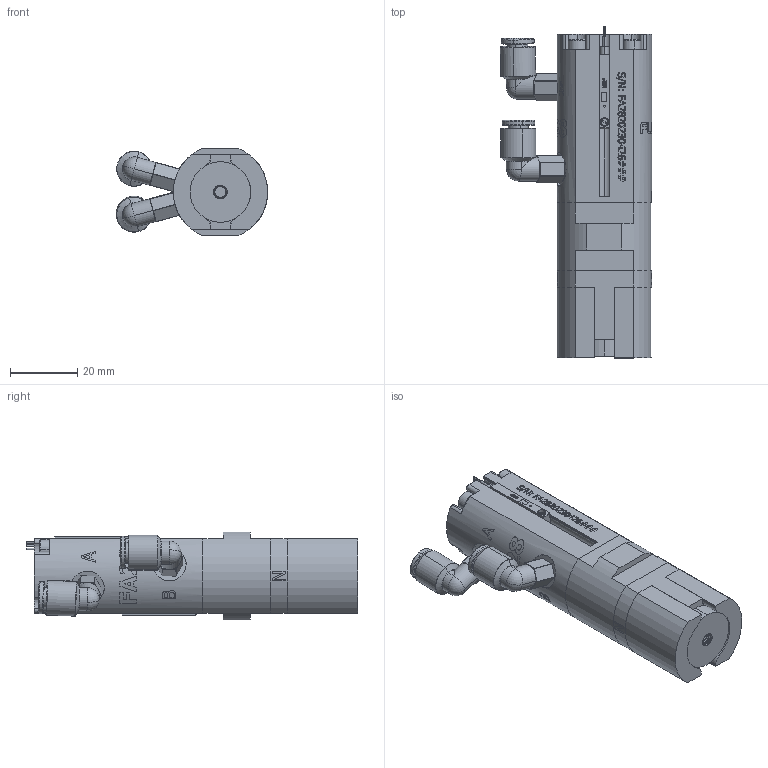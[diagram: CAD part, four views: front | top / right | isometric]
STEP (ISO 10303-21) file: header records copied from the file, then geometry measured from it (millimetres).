
FILE_DESCRIPTION (( 'STEP AP214' ), '1' );
FILE_NAME ('9970119_FA28-P-1(FOR SHARE).STEP', '2023-10-06T08:03:05', ( '' ), ( '' ), 'SwSTEP 2.0', 'SolidWorks 2021', '' );
FILE_SCHEMA (( 'AUTOMOTIVE_DESIGN' ));
Length unit declared in the file: millimetre
Products named in the file (14): 120050_FA28 std  pin pole; 120051 - FA28 PIN insert; 150048_M3X75_SHCS_304(FOR SHARE)_91292A316; 120040_FA28 shunt(FOR SHARE); 210011_D-M9P magnetic prox switch (PNP)_M9P; 110030_FA28 base housing(FOR SHARE); 160032_2.5X20__SUS304_默认_; 110031_FA28 actuator top(FOR SHARE); 4060033_FA28 std pin pole kit_默认_; 160029_2.5X8__SUS304_默认_; 9070005 - FA28 (FOR SHARE); 160030_2.5X12__SUS304_默认_; 180027_ M5-6mm_plug-in airport; 9970119_FA28-P-1(FOR SHARE)
Assembly tree (22 placements, depth 3):
  9970119_FA28-P-1(FOR SHARE)
    9070005 - FA28 (FOR SHARE)
      110031_FA28 actuator top(FOR SHARE)
      110030_FA28 base housing(FOR SHARE)
      120040_FA28 shunt(FOR SHARE)
      150048_M3X75_SHCS_304(FOR SHARE)_91292A316  x4
      160029_2.5X8__SUS304_默认_  x2
      160030_2.5X12__SUS304_默认_  x2
    210011_D-M9P magnetic prox switch (PNP)_M9P  x2
    4060033_FA28 std pin pole kit_默认_
      120050_FA28 std  pin pole  x2
      120051 - FA28 PIN insert
      160032_2.5X20__SUS304_默认_  x2
    180027_ M5-6mm_plug-in airport  x2
Bounding box: 44.9 x 98.5 x 26 mm (x, y, z)
Volume: 50455.8 mm3; surface area: 27075.8 mm2
Topology: 20 solids, 26 shells, 866 faces, 2474 edges, 1699 vertices
Faces by surface type: cylinder 338, plane 262, cone 153, bspline 53, torus 32, sphere 28
Entity records: 28315 total; most frequent: CARTESIAN_POINT 11379, ORIENTED_EDGE 3318, DIRECTION 2792, EDGE_CURVE 1663, VERTEX_POINT 1250, AXIS2_PLACEMENT_3D 1019, LINE 754, VECTOR 754
